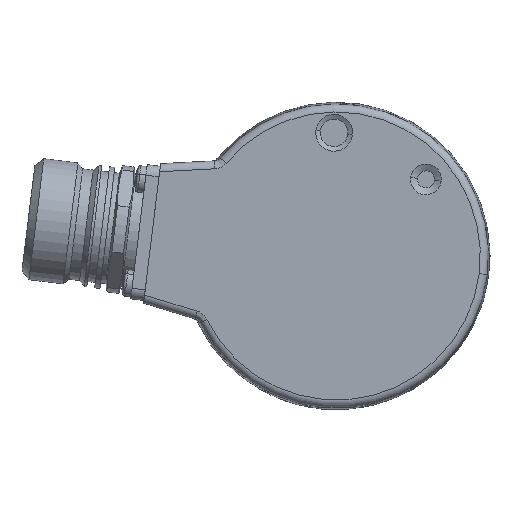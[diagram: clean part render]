
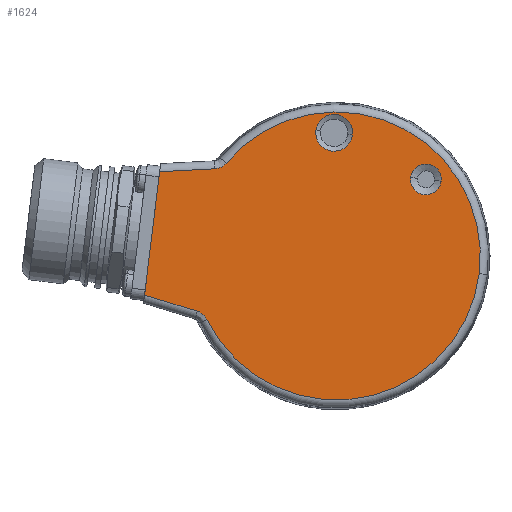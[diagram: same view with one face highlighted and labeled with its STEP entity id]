
A CAD part, left-side view. The second image highlights one B-rep face of the part: STEP entity #1624.
In plain terms, the highlighted planar face has unit normal (-1, 0, 0).
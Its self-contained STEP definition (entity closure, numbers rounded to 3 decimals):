
#1624 = ADVANCED_FACE ( 'NONE', ( #5136, #5135, #5134 ), #4955, .F. ) ;
#1625 = EDGE_LOOP ( 'NONE', ( #1910, #1911 ) ) ;
#1719 = EDGE_CURVE ( 'NONE', #7073, #1783, #5397, .T. ) ;
#1744 = VERTEX_POINT ( 'NONE', #5416 ) ;
#1748 = VERTEX_POINT ( 'NONE', #5471 ) ;
#1750 = EDGE_CURVE ( 'NONE', #1744, #1748, #5469, .T. ) ;
#1783 = VERTEX_POINT ( 'NONE', #5764 ) ;
#1784 = EDGE_CURVE ( 'NONE', #1858, #7006, #5801, .T. ) ;
#1843 = ORIENTED_EDGE ( 'NONE', *, *, #1719, .T. ) ;
#1844 = ORIENTED_EDGE ( 'NONE', *, *, #1845, .F. ) ;
#1845 = EDGE_CURVE ( 'NONE', #1744, #1783, #5918, .T. ) ;
#1846 = ORIENTED_EDGE ( 'NONE', *, *, #1750, .T. ) ;
#1847 = ORIENTED_EDGE ( 'NONE', *, *, #1860, .F. ) ;
#1848 = ORIENTED_EDGE ( 'NONE', *, *, #1784, .T. ) ;
#1858 = VERTEX_POINT ( 'NONE', #6284 ) ;
#1860 = EDGE_CURVE ( 'NONE', #1858, #1748, #6283, .T. ) ;
#1863 = EDGE_CURVE ( 'NONE', #7073, #7007, #6095, .T. ) ;
#1882 = EDGE_CURVE ( 'NONE', #7291, #7294, #6170, .T. ) ;
#1898 = ORIENTED_EDGE ( 'NONE', *, *, #7086, .T. ) ;
#1904 = EDGE_CURVE ( 'NONE', #7059, #7062, #6439, .T. ) ;
#1910 = ORIENTED_EDGE ( 'NONE', *, *, #7061, .T. ) ;
#1911 = ORIENTED_EDGE ( 'NONE', *, *, #1904, .T. ) ;
#1912 = EDGE_LOOP ( 'NONE', ( #1913, #1914 ) ) ;
#1913 = ORIENTED_EDGE ( 'NONE', *, *, #7293, .T. ) ;
#1914 = ORIENTED_EDGE ( 'NONE', *, *, #1882, .T. ) ;
#1915 = EDGE_LOOP ( 'NONE', ( #1916, #1843, #1844, #1846, #1847, #1848, #1898 ) ) ;
#1916 = ORIENTED_EDGE ( 'NONE', *, *, #1863, .F. ) ;
#4951 = DIRECTION ( 'NONE',  ( 0., -0.993, -0.122 ) ) ;
#4952 = DIRECTION ( 'NONE',  ( 1., 0., 0. ) ) ;
#4953 = CARTESIAN_POINT ( 'NONE',  ( -22.96, -8.157, 2.603 ) ) ;
#4954 = AXIS2_PLACEMENT_3D ( 'NONE', #4953, #4952, #4951 ) ;
#4955 = PLANE ( 'NONE',  #4954 ) ;
#5134 = FACE_OUTER_BOUND ( 'NONE', #1915, .T. ) ;
#5135 = FACE_BOUND ( 'NONE', #1912, .T. ) ;
#5136 = FACE_BOUND ( 'NONE', #1625, .T. ) ;
#5394 = DIRECTION ( 'NONE',  ( 0., 0.999, -0.052 ) ) ;
#5395 = VECTOR ( 'NONE', #5394, 1000. ) ;
#5396 = CARTESIAN_POINT ( 'NONE',  ( -22.96, 24.889, 18.522 ) ) ;
#5397 = LINE ( 'NONE', #5396, #5395 ) ;
#5416 = CARTESIAN_POINT ( 'NONE',  ( -22.96, 28.012, -4.771 ) ) ;
#5466 = DIRECTION ( 'NONE',  ( 0., -0.956, -0.292 ) ) ;
#5467 = VECTOR ( 'NONE', #5466, 1000. ) ;
#5468 = CARTESIAN_POINT ( 'NONE',  ( -22.96, 17.4, -8.015 ) ) ;
#5469 = LINE ( 'NONE', #5468, #5467 ) ;
#5471 = CARTESIAN_POINT ( 'NONE',  ( -22.96, 18.056, -7.815 ) ) ;
#5763 = CARTESIAN_POINT ( 'NONE',  ( -22.96, -8.157, 2.603 ) ) ;
#5764 = CARTESIAN_POINT ( 'NONE',  ( -22.96, 25.153, 18.508 ) ) ;
#5798 = DIRECTION ( 'NONE',  ( 0., -0.993, -0.122 ) ) ;
#5799 = DIRECTION ( 'NONE',  ( -1., 0., 0. ) ) ;
#5800 = AXIS2_PLACEMENT_3D ( 'NONE', #5763, #5799, #5798 ) ;
#5801 = CIRCLE ( 'NONE', #5800, 27.173 ) ;
#5915 = DIRECTION ( 'NONE',  ( 0., -0.122, 0.993 ) ) ;
#5916 = VECTOR ( 'NONE', #5915, 1000. ) ;
#5917 = CARTESIAN_POINT ( 'NONE',  ( -22.96, 28.197, -6.283 ) ) ;
#5918 = LINE ( 'NONE', #5917, #5916 ) ;
#6079 = CARTESIAN_POINT ( 'NONE',  ( -22.96, 12.753, 19.958 ) ) ;
#6080 = CARTESIAN_POINT ( 'NONE',  ( -22.96, 12.9, 19.816 ) ) ;
#6081 = CARTESIAN_POINT ( 'NONE',  ( -22.96, 13.22, 19.565 ) ) ;
#6082 = CARTESIAN_POINT ( 'NONE',  ( -22.96, 13.395, 19.454 ) ) ;
#6083 = CARTESIAN_POINT ( 'NONE',  ( -22.96, 13.761, 19.272 ) ) ;
#6084 = CARTESIAN_POINT ( 'NONE',  ( -22.96, 13.951, 19.2 ) ) ;
#6085 = CARTESIAN_POINT ( 'NONE',  ( -22.96, 14.347, 19.096 ) ) ;
#6086 = CARTESIAN_POINT ( 'NONE',  ( -22.96, 14.552, 19.064 ) ) ;
#6087 = CARTESIAN_POINT ( 'NONE',  ( -22.96, 14.757, 19.053 ) ) ;
#6095 = B_SPLINE_CURVE_WITH_KNOTS ( 'NONE', 3,
 ( #6087, #6086, #6085, #6084, #6083, #6082, #6081, #6080, #6079, #6271 ),
 .UNSPECIFIED., .F., .F.,
 ( 4, 2, 2, 2, 4 ),
 ( 0., 0.001, 0.001, 0.002, 0.002 ),
 .UNSPECIFIED. ) ;
#6143 = DIRECTION ( 'NONE',  ( 0., -0.993, -0.122 ) ) ;
#6144 = DIRECTION ( 'NONE',  ( 1., 0., 0. ) ) ;
#6145 = CARTESIAN_POINT ( 'NONE',  ( -22.96, -7.751, 25.85 ) ) ;
#6170 = CIRCLE ( 'NONE', #6176, 3.466 ) ;
#6176 = AXIS2_PLACEMENT_3D ( 'NONE', #6145, #6144, #6143 ) ;
#6271 = CARTESIAN_POINT ( 'NONE',  ( -22.96, 12.62, 20.115 ) ) ;
#6272 = CARTESIAN_POINT ( 'NONE',  ( -22.96, 18.056, -7.815 ) ) ;
#6273 = CARTESIAN_POINT ( 'NONE',  ( -22.96, 17.859, -7.875 ) ) ;
#6274 = CARTESIAN_POINT ( 'NONE',  ( -22.96, 17.671, -7.954 ) ) ;
#6275 = CARTESIAN_POINT ( 'NONE',  ( -22.96, 17.315, -8.15 ) ) ;
#6276 = CARTESIAN_POINT ( 'NONE',  ( -22.96, 17.144, -8.267 ) ) ;
#6277 = CARTESIAN_POINT ( 'NONE',  ( -22.96, 16.832, -8.532 ) ) ;
#6278 = CARTESIAN_POINT ( 'NONE',  ( -22.96, 16.692, -8.679 ) ) ;
#6279 = CARTESIAN_POINT ( 'NONE',  ( -22.96, 16.441, -9.002 ) ) ;
#6280 = CARTESIAN_POINT ( 'NONE',  ( -22.96, 16.33, -9.178 ) ) ;
#6281 = CARTESIAN_POINT ( 'NONE',  ( -22.96, 16.24, -9.363 ) ) ;
#6283 = B_SPLINE_CURVE_WITH_KNOTS ( 'NONE', 3,
 ( #6281, #6280, #6279, #6278, #6277, #6276, #6275, #6274, #6273, #6272 ),
 .UNSPECIFIED., .F., .F.,
 ( 4, 2, 2, 2, 4 ),
 ( 0., 0.001, 0.001, 0.002, 0.002 ),
 .UNSPECIFIED. ) ;
#6284 = CARTESIAN_POINT ( 'NONE',  ( -22.96, 16.24, -9.363 ) ) ;
#6435 = DIRECTION ( 'NONE',  ( 0., -0.993, -0.122 ) ) ;
#6436 = DIRECTION ( 'NONE',  ( 1., 0., 0. ) ) ;
#6437 = CARTESIAN_POINT ( 'NONE',  ( -22.96, -25.076, 17.053 ) ) ;
#6438 = AXIS2_PLACEMENT_3D ( 'NONE', #6437, #6436, #6435 ) ;
#6439 = CIRCLE ( 'NONE', #6438, 2.899 ) ;
#7006 = VERTEX_POINT ( 'NONE', #13207 ) ;
#7007 = VERTEX_POINT ( 'NONE', #13203 ) ;
#7059 = VERTEX_POINT ( 'NONE', #13061 ) ;
#7061 = EDGE_CURVE ( 'NONE', #7062, #7059, #13060, .T. ) ;
#7062 = VERTEX_POINT ( 'NONE', #13055 ) ;
#7073 = VERTEX_POINT ( 'NONE', #12493 ) ;
#7086 = EDGE_CURVE ( 'NONE', #7006, #7007, #12540, .T. ) ;
#7291 = VERTEX_POINT ( 'NONE', #13407 ) ;
#7293 = EDGE_CURVE ( 'NONE', #7294, #7291, #13406, .T. ) ;
#7294 = VERTEX_POINT ( 'NONE', #13401 ) ;
#12493 = CARTESIAN_POINT ( 'NONE',  ( -22.96, 14.757, 19.053 ) ) ;
#12524 = DIRECTION ( 'NONE',  ( 0., -0.993, -0.122 ) ) ;
#12526 = AXIS2_PLACEMENT_3D ( 'NONE', #12539, #12538, #12524 ) ;
#12538 = DIRECTION ( 'NONE',  ( -1., 0., 0. ) ) ;
#12539 = CARTESIAN_POINT ( 'NONE',  ( -22.96, -8.157, 2.603 ) ) ;
#12540 = CIRCLE ( 'NONE', #12526, 27.173 ) ;
#13055 = CARTESIAN_POINT ( 'NONE',  ( -22.96, -22.198, 17.407 ) ) ;
#13056 = DIRECTION ( 'NONE',  ( 0., -0.993, -0.122 ) ) ;
#13057 = DIRECTION ( 'NONE',  ( 1., 0., 0. ) ) ;
#13058 = CARTESIAN_POINT ( 'NONE',  ( -22.96, -25.076, 17.053 ) ) ;
#13059 = AXIS2_PLACEMENT_3D ( 'NONE', #13058, #13057, #13056 ) ;
#13060 = CIRCLE ( 'NONE', #13059, 2.899 ) ;
#13061 = CARTESIAN_POINT ( 'NONE',  ( -22.96, -27.953, 16.7 ) ) ;
#13203 = CARTESIAN_POINT ( 'NONE',  ( -22.96, 12.62, 20.115 ) ) ;
#13207 = CARTESIAN_POINT ( 'NONE',  ( -22.96, -35.127, -0.708 ) ) ;
#13401 = CARTESIAN_POINT ( 'NONE',  ( -22.96, -4.311, 26.272 ) ) ;
#13402 = DIRECTION ( 'NONE',  ( 0., -0.993, -0.122 ) ) ;
#13403 = DIRECTION ( 'NONE',  ( 1., 0., 0. ) ) ;
#13404 = CARTESIAN_POINT ( 'NONE',  ( -22.96, -7.751, 25.85 ) ) ;
#13405 = AXIS2_PLACEMENT_3D ( 'NONE', #13404, #13403, #13402 ) ;
#13406 = CIRCLE ( 'NONE', #13405, 3.466 ) ;
#13407 = CARTESIAN_POINT ( 'NONE',  ( -22.96, -11.191, 25.427 ) ) ;
